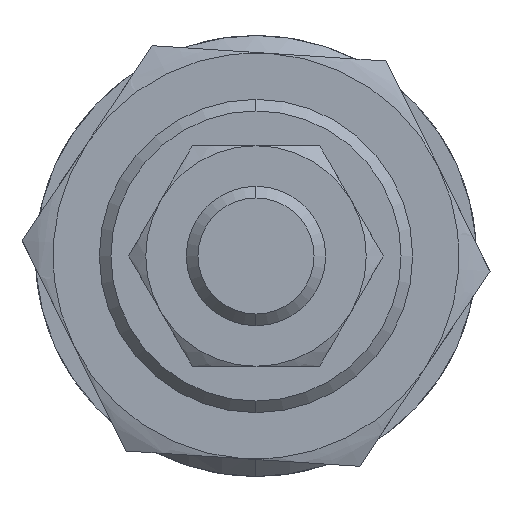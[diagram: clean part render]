
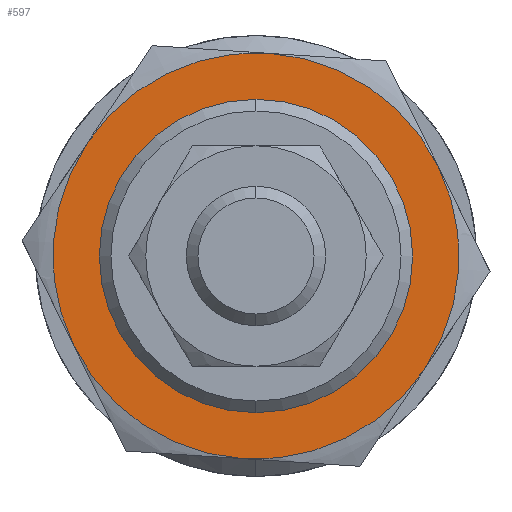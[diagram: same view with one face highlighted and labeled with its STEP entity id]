
A CAD part, left-side view. The second image highlights one B-rep face of the part: STEP entity #597.
In plain terms, the highlighted planar face has unit normal (-1, 0, 0) as drawn and (0, 0, -1) by its records, which use the part's own axes.
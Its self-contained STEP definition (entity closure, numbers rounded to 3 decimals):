
#12 = AXIS2_PLACEMENT_3D ( 'NONE', #1239, #3079, #1171 ) ;
#93 = AXIS2_PLACEMENT_3D ( 'NONE', #346, #474, #2100 ) ;
#136 = CARTESIAN_POINT ( 'NONE',  ( -17.5, 0., -5. ) ) ;
#157 = FACE_BOUND ( 'NONE', #2312, .T. ) ;
#158 = DIRECTION ( 'NONE',  ( 0., 0., 1. ) ) ;
#289 = DIRECTION ( 'NONE',  ( 0., 0., 1. ) ) ;
#346 = CARTESIAN_POINT ( 'NONE',  ( 0., 0., -5. ) ) ;
#442 = AXIS2_PLACEMENT_3D ( 'NONE', #952, #2301, #789 ) ;
#444 = VERTEX_POINT ( 'NONE', #740 ) ;
#474 = DIRECTION ( 'NONE',  ( 0., 0., 1. ) ) ;
#597 = ADVANCED_FACE ( 'NONE', ( #157, #1649 ), #2364, .F. ) ;
#678 = AXIS2_PLACEMENT_3D ( 'NONE', #2567, #2287, #1223 ) ;
#740 = CARTESIAN_POINT ( 'NONE',  ( -12.5, 0., -5. ) ) ;
#747 = CARTESIAN_POINT ( 'NONE',  ( 17.5, 0., -5. ) ) ;
#789 = DIRECTION ( 'NONE',  ( 1., 0., 0. ) ) ;
#817 = CARTESIAN_POINT ( 'NONE',  ( 0., 0., -5. ) ) ;
#952 = CARTESIAN_POINT ( 'NONE',  ( 0., 0., -5. ) ) ;
#957 = CARTESIAN_POINT ( 'NONE',  ( 0., 0., -5. ) ) ;
#1041 = ORIENTED_EDGE ( 'NONE', *, *, #2903, .T. ) ;
#1066 = DIRECTION ( 'NONE',  ( 1., 0., 0. ) ) ;
#1080 = VERTEX_POINT ( 'NONE', #2862 ) ;
#1138 = VERTEX_POINT ( 'NONE', #2977 ) ;
#1166 = EDGE_CURVE ( 'NONE', #1249, #1138, #2398, .T. ) ;
#1171 = DIRECTION ( 'NONE',  ( 1., 0., 0. ) ) ;
#1192 = ORIENTED_EDGE ( 'NONE', *, *, #1166, .F. ) ;
#1223 = DIRECTION ( 'NONE',  ( 1., 0., 0. ) ) ;
#1239 = CARTESIAN_POINT ( 'NONE',  ( 0., 0., -5. ) ) ;
#1249 = VERTEX_POINT ( 'NONE', #747 ) ;
#1421 = DIRECTION ( 'NONE',  ( 1., 0., 0. ) ) ;
#1464 = VERTEX_POINT ( 'NONE', #2667 ) ;
#1609 = ORIENTED_EDGE ( 'NONE', *, *, #2456, .T. ) ;
#1620 = ORIENTED_EDGE ( 'NONE', *, *, #2649, .F. ) ;
#1649 = FACE_OUTER_BOUND ( 'NONE', #3109, .T. ) ;
#1674 = EDGE_CURVE ( 'NONE', #1138, #3463, #1964, .T. ) ;
#1678 = CIRCLE ( 'NONE', #678, 12.5 ) ;
#1730 = AXIS2_PLACEMENT_3D ( 'NONE', #2599, #3311, #3363 ) ;
#1788 = AXIS2_PLACEMENT_3D ( 'NONE', #2939, #2477, #3466 ) ;
#1964 = CIRCLE ( 'NONE', #2875, 17.5 ) ;
#1989 = VERTEX_POINT ( 'NONE', #2885 ) ;
#2057 = CIRCLE ( 'NONE', #3063, 17.5 ) ;
#2100 = DIRECTION ( 'NONE',  ( 1., 0., 0. ) ) ;
#2287 = DIRECTION ( 'NONE',  ( 0., 0., 1. ) ) ;
#2290 = ORIENTED_EDGE ( 'NONE', *, *, #2533, .F. ) ;
#2301 = DIRECTION ( 'NONE',  ( 0., 0., 1. ) ) ;
#2312 = EDGE_LOOP ( 'NONE', ( #1041, #1609 ) ) ;
#2345 = DIRECTION ( 'NONE',  ( 1., 0., 0. ) ) ;
#2364 = PLANE ( 'NONE',  #93 ) ;
#2398 = CIRCLE ( 'NONE', #1788, 17.5 ) ;
#2436 = ORIENTED_EDGE ( 'NONE', *, *, #2888, .F. ) ;
#2456 = EDGE_CURVE ( 'NONE', #444, #1989, #1678, .T. ) ;
#2464 = CARTESIAN_POINT ( 'NONE',  ( -8.75, 15.155, -5. ) ) ;
#2477 = DIRECTION ( 'NONE',  ( 0., 0., 1. ) ) ;
#2533 = EDGE_CURVE ( 'NONE', #1080, #1464, #2861, .T. ) ;
#2567 = CARTESIAN_POINT ( 'NONE',  ( 0., 0., -5. ) ) ;
#2599 = CARTESIAN_POINT ( 'NONE',  ( 0., 0., -5. ) ) ;
#2649 = EDGE_CURVE ( 'NONE', #1464, #1249, #2878, .T. ) ;
#2662 = EDGE_CURVE ( 'NONE', #3463, #2816, #2057, .T. ) ;
#2667 = CARTESIAN_POINT ( 'NONE',  ( 8.75, -15.155, -5. ) ) ;
#2816 = VERTEX_POINT ( 'NONE', #136 ) ;
#2861 = CIRCLE ( 'NONE', #3203, 17.5 ) ;
#2862 = CARTESIAN_POINT ( 'NONE',  ( -8.75, -15.155, -5. ) ) ;
#2875 = AXIS2_PLACEMENT_3D ( 'NONE', #817, #3051, #2345 ) ;
#2878 = CIRCLE ( 'NONE', #442, 17.5 ) ;
#2885 = CARTESIAN_POINT ( 'NONE',  ( 12.5, 0., -5. ) ) ;
#2888 = EDGE_CURVE ( 'NONE', #2816, #1080, #3187, .T. ) ;
#2903 = EDGE_CURVE ( 'NONE', #1989, #444, #3385, .T. ) ;
#2939 = CARTESIAN_POINT ( 'NONE',  ( 0., 0., -5. ) ) ;
#2952 = ORIENTED_EDGE ( 'NONE', *, *, #2662, .F. ) ;
#2977 = CARTESIAN_POINT ( 'NONE',  ( 8.75, 15.155, -5. ) ) ;
#3046 = ORIENTED_EDGE ( 'NONE', *, *, #1674, .F. ) ;
#3051 = DIRECTION ( 'NONE',  ( 0., 0., 1. ) ) ;
#3063 = AXIS2_PLACEMENT_3D ( 'NONE', #957, #289, #1421 ) ;
#3079 = DIRECTION ( 'NONE',  ( 0., 0., 1. ) ) ;
#3109 = EDGE_LOOP ( 'NONE', ( #1192, #1620, #2290, #2436, #2952, #3046 ) ) ;
#3172 = CARTESIAN_POINT ( 'NONE',  ( 0., 0., -5. ) ) ;
#3187 = CIRCLE ( 'NONE', #1730, 17.5 ) ;
#3203 = AXIS2_PLACEMENT_3D ( 'NONE', #3172, #158, #1066 ) ;
#3311 = DIRECTION ( 'NONE',  ( 0., 0., 1. ) ) ;
#3363 = DIRECTION ( 'NONE',  ( 1., 0., 0. ) ) ;
#3385 = CIRCLE ( 'NONE', #12, 12.5 ) ;
#3463 = VERTEX_POINT ( 'NONE', #2464 ) ;
#3466 = DIRECTION ( 'NONE',  ( 1., 0., 0. ) ) ;
